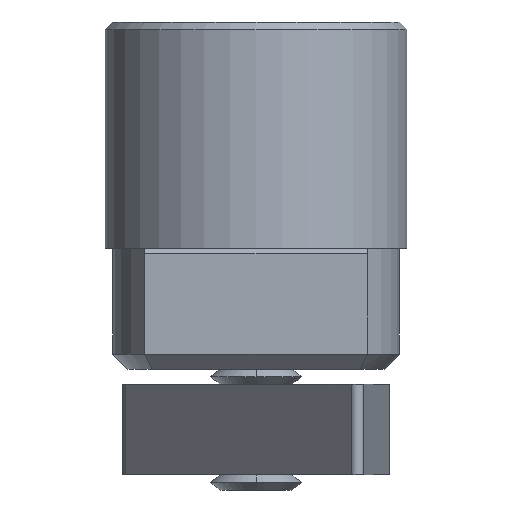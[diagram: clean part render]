
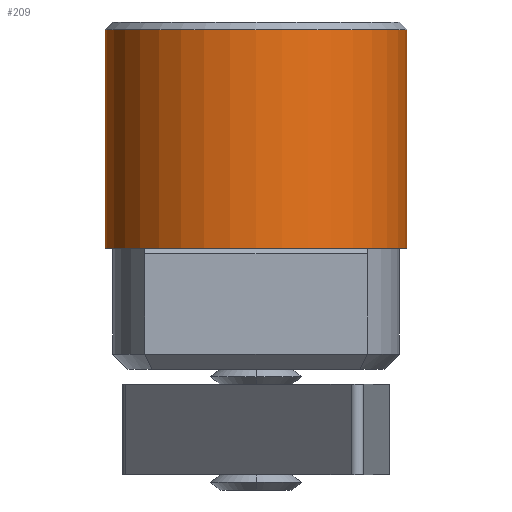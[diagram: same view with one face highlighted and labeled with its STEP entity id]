
A CAD part, front view. The second image highlights one B-rep face of the part: STEP entity #209.
In plain terms, the highlighted cylindrical face has radius 10 mm (diameter 20 mm), a partial arc.
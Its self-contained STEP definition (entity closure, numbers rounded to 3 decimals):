
#153 = VERTEX_POINT ( 'NONE', #1262 ) ;
#156 = VERTEX_POINT ( 'NONE', #1256 ) ;
#173 = EDGE_CURVE ( 'NONE', #153, #174, #1283, .T. ) ;
#174 = VERTEX_POINT ( 'NONE', #1279 ) ;
#177 = VERTEX_POINT ( 'NONE', #1273 ) ;
#179 = EDGE_CURVE ( 'NONE', #156, #177, #1272, .T. ) ;
#209 = ADVANCED_FACE ( 'NONE', ( #1325 ), #1324, .T. ) ;
#210 = ORIENTED_EDGE ( 'NONE', *, *, #173, .F. ) ;
#211 = ORIENTED_EDGE ( 'NONE', *, *, #212, .T. ) ;
#212 = EDGE_CURVE ( 'NONE', #153, #156, #1381, .T. ) ;
#213 = ORIENTED_EDGE ( 'NONE', *, *, #179, .T. ) ;
#214 = ORIENTED_EDGE ( 'NONE', *, *, #238, .T. ) ;
#236 = EDGE_LOOP ( 'NONE', ( #210, #211, #213, #214 ) ) ;
#238 = EDGE_CURVE ( 'NONE', #177, #174, #1403, .T. ) ;
#1256 = CARTESIAN_POINT ( 'NONE',  ( -10., 0., 14.5 ) ) ;
#1262 = CARTESIAN_POINT ( 'NONE',  ( 10., 0., 14.5 ) ) ;
#1269 = DIRECTION ( 'NONE',  ( 0., 0., -1. ) ) ;
#1270 = VECTOR ( 'NONE', #1269, 1000. ) ;
#1271 = CARTESIAN_POINT ( 'NONE',  ( -10., 0., 15. ) ) ;
#1272 = LINE ( 'NONE', #1271, #1270 ) ;
#1273 = CARTESIAN_POINT ( 'NONE',  ( -10., 0., 0. ) ) ;
#1279 = CARTESIAN_POINT ( 'NONE',  ( 10., 0., 0. ) ) ;
#1280 = DIRECTION ( 'NONE',  ( 0., 0., -1. ) ) ;
#1281 = VECTOR ( 'NONE', #1280, 1000. ) ;
#1282 = CARTESIAN_POINT ( 'NONE',  ( 10., 0., 15. ) ) ;
#1283 = LINE ( 'NONE', #1282, #1281 ) ;
#1322 = CARTESIAN_POINT ( 'NONE',  ( 0., 0., 15. ) ) ;
#1323 = AXIS2_PLACEMENT_3D ( 'NONE', #1322, #1383, #1382 ) ;
#1324 = CYLINDRICAL_SURFACE ( 'NONE', #1323, 10. ) ;
#1325 = FACE_OUTER_BOUND ( 'NONE', #236, .T. ) ;
#1377 = DIRECTION ( 'NONE',  ( 1., 0., 0. ) ) ;
#1378 = DIRECTION ( 'NONE',  ( 0., 0., -1. ) ) ;
#1379 = CARTESIAN_POINT ( 'NONE',  ( 0., 0., 14.5 ) ) ;
#1380 = AXIS2_PLACEMENT_3D ( 'NONE', #1379, #1378, #1377 ) ;
#1381 = CIRCLE ( 'NONE', #1380, 10. ) ;
#1382 = DIRECTION ( 'NONE',  ( -1., 0., 0. ) ) ;
#1383 = DIRECTION ( 'NONE',  ( 0., 0., -1. ) ) ;
#1399 = DIRECTION ( 'NONE',  ( 1., 0., 0. ) ) ;
#1400 = DIRECTION ( 'NONE',  ( 0., 0., 1. ) ) ;
#1401 = CARTESIAN_POINT ( 'NONE',  ( 0., 0., 0. ) ) ;
#1402 = AXIS2_PLACEMENT_3D ( 'NONE', #1401, #1400, #1399 ) ;
#1403 = CIRCLE ( 'NONE', #1402, 10. ) ;
